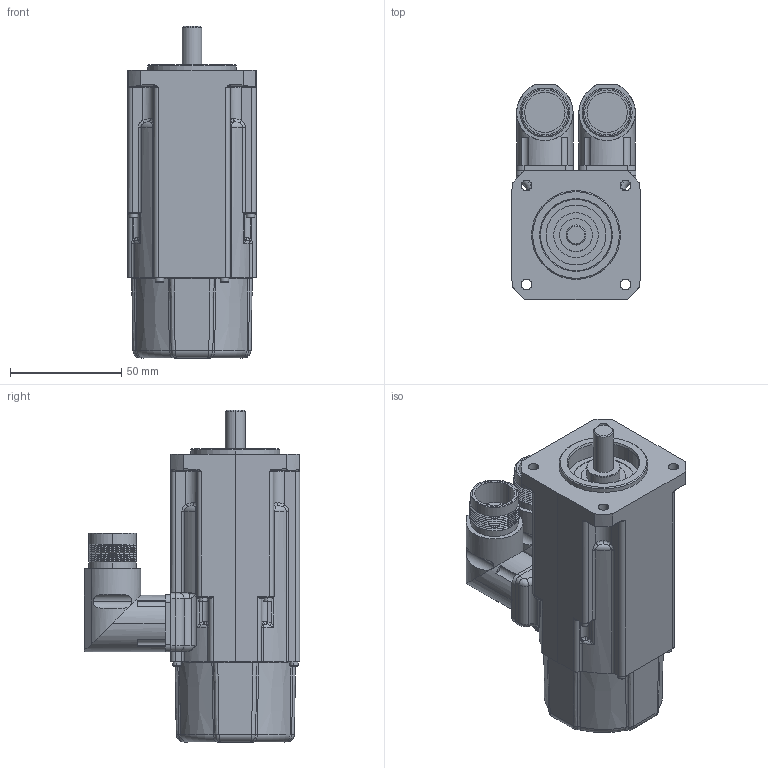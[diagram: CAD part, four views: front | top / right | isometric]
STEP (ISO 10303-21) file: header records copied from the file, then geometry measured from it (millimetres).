
FILE_DESCRIPTION (( 'STEP AP214' ), '1' );
FILE_NAME ('MR7721-Ux-Nxx-G01-A0D-MS-P0.stp', '2009-04-08T13:46:00', ( 'sysAdmin' ), ( 'SolidWorks' ), 'SwSTEP 2.0', 'SolidWorks 2009', '' );
FILE_SCHEMA (( 'AUTOMOTIVE_DESIGN' ));
Length unit declared in the file: millimetre
Products named in the file (1): MR7721-Ux-Nxx-G01-A0D-MS-P0
Bounding box: 58 x 97 x 149.5 mm (x, y, z)
Volume: 410967.8 mm3; surface area: 47613.8 mm2
Topology: 1 solids, 1 shells, 617 faces, 1546 edges, 928 vertices
Faces by surface type: cylinder 189, bspline 146, cone 124, plane 101, torus 57
Entity records: 25583 total; most frequent: CARTESIAN_POINT 9652, ORIENTED_EDGE 3032, DIRECTION 2653, EDGE_CURVE 1516, AXIS2_PLACEMENT_3D 1123, VERTEX_POINT 928, EDGE_LOOP 652, CIRCLE 651
